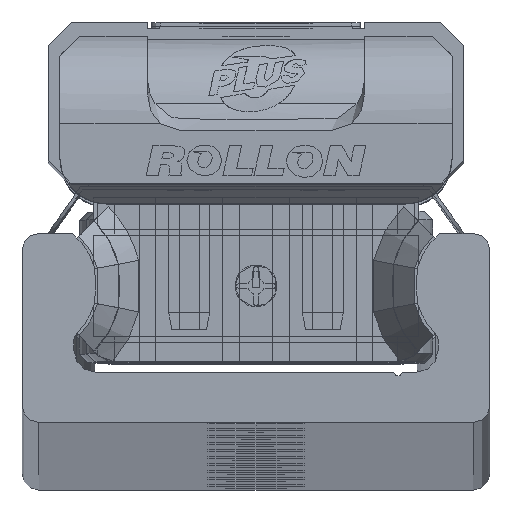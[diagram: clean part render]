
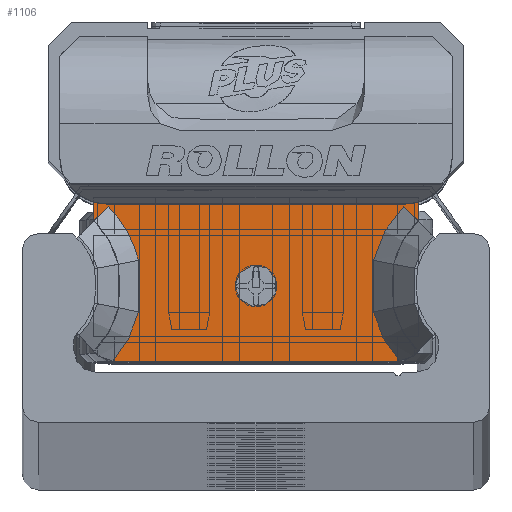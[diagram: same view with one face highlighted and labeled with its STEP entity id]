
A CAD part, top view. The second image highlights one B-rep face of the part: STEP entity #1106.
In plain terms, the highlighted planar face has unit normal (0, 0, 1) as drawn and (0, 0, -1) by its records, which use the part's own axes.
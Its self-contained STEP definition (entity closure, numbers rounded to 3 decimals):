
#1106 = ADVANCED_FACE( '', ( #2772, #2773 ), #2774, .F. );
#2772 = FACE_BOUND( '', #5143, .T. );
#2773 = FACE_OUTER_BOUND( '', #5144, .T. );
#2774 = PLANE( '', #5145 );
#5143 = EDGE_LOOP( '', ( #8236 ) );
#5144 = EDGE_LOOP( '', ( #8237, #8238, #8239, #8240, #8241, #8242, #8243, #8244, #8245, #8246, #8247, #8248, #8249, #8250 ) );
#5145 = AXIS2_PLACEMENT_3D( '', #8251, #8252, #8253 );
#8236 = ORIENTED_EDGE( '', *, *, #13626, .T. );
#8237 = ORIENTED_EDGE( '', *, *, #13627, .F. );
#8238 = ORIENTED_EDGE( '', *, *, #13628, .T. );
#8239 = ORIENTED_EDGE( '', *, *, #13629, .T. );
#8240 = ORIENTED_EDGE( '', *, *, #13630, .T. );
#8241 = ORIENTED_EDGE( '', *, *, #13631, .T. );
#8242 = ORIENTED_EDGE( '', *, *, #13632, .T. );
#8243 = ORIENTED_EDGE( '', *, *, #13633, .T. );
#8244 = ORIENTED_EDGE( '', *, *, #13634, .T. );
#8245 = ORIENTED_EDGE( '', *, *, #13635, .T. );
#8246 = ORIENTED_EDGE( '', *, *, #13636, .T. );
#8247 = ORIENTED_EDGE( '', *, *, #13637, .T. );
#8248 = ORIENTED_EDGE( '', *, *, #13638, .T. );
#8249 = ORIENTED_EDGE( '', *, *, #13447, .T. );
#8250 = ORIENTED_EDGE( '', *, *, #13639, .T. );
#8251 = CARTESIAN_POINT( '', ( 9.7, 4.89, -10.6 ) );
#8252 = DIRECTION( '', ( 0., 0., 1. ) );
#8253 = DIRECTION( '', ( 1., 0., 0. ) );
#13447 = EDGE_CURVE( '', #16121, #16122, #16123, .T. );
#13626 = EDGE_CURVE( '', #16417, #16417, #16418, .T. );
#13627 = EDGE_CURVE( '', #16419, #16420, #16421, .T. );
#13628 = EDGE_CURVE( '', #16419, #16422, #16423, .T. );
#13629 = EDGE_CURVE( '', #16422, #16424, #16425, .T. );
#13630 = EDGE_CURVE( '', #16424, #16426, #16427, .T. );
#13631 = EDGE_CURVE( '', #16426, #16177, #16428, .T. );
#13632 = EDGE_CURVE( '', #16177, #16429, #16430, .T. );
#13633 = EDGE_CURVE( '', #16429, #16431, #16432, .T. );
#13634 = EDGE_CURVE( '', #16431, #16433, #16434, .T. );
#13635 = EDGE_CURVE( '', #16433, #16435, #16436, .T. );
#13636 = EDGE_CURVE( '', #16435, #15860, #16437, .T. );
#13637 = EDGE_CURVE( '', #15860, #16438, #16439, .T. );
#13638 = EDGE_CURVE( '', #16438, #16121, #16440, .T. );
#13639 = EDGE_CURVE( '', #16122, #16420, #16441, .T. );
#15860 = VERTEX_POINT( '', #19471 );
#16121 = VERTEX_POINT( '', #19822 );
#16122 = VERTEX_POINT( '', #19823 );
#16123 = B_SPLINE_CURVE_WITH_KNOTS( '', 2, ( #19824, #19825, #19826 ), .UNSPECIFIED., .F., .F., ( 3, 3 ), ( 0., 1. ), .UNSPECIFIED. );
#16177 = VERTEX_POINT( '', #19896 );
#16417 = VERTEX_POINT( '', #20206 );
#16418 = CIRCLE( '', #20207, 1.25 );
#16419 = VERTEX_POINT( '', #20208 );
#16420 = VERTEX_POINT( '', #20209 );
#16421 = LINE( '', #20210, #20211 );
#16422 = VERTEX_POINT( '', #20212 );
#16423 = CIRCLE( '', #20213, 2.8 );
#16424 = VERTEX_POINT( '', #20214 );
#16425 = LINE( '', #20215, #20216 );
#16426 = VERTEX_POINT( '', #20217 );
#16427 = CIRCLE( '', #20218, 2.8 );
#16428 = LINE( '', #20219, #20220 );
#16429 = VERTEX_POINT( '', #20221 );
#16430 = LINE( '', #20222, #20223 );
#16431 = VERTEX_POINT( '', #20224 );
#16432 = B_SPLINE_CURVE_WITH_KNOTS( '', 2, ( #20225, #20226, #20227, #20228, #20229 ), .UNSPECIFIED., .F., .F., ( 3, 2, 3 ), ( 0., 0.5, 1. ), .UNSPECIFIED. );
#16433 = VERTEX_POINT( '', #20230 );
#16434 = B_SPLINE_CURVE_WITH_KNOTS( '', 2, ( #20231, #20232, #20233 ), .UNSPECIFIED., .F., .F., ( 3, 3 ), ( 0., 1. ), .UNSPECIFIED. );
#16435 = VERTEX_POINT( '', #20234 );
#16436 = B_SPLINE_CURVE_WITH_KNOTS( '', 2, ( #20235, #20236, #20237 ), .UNSPECIFIED., .F., .F., ( 3, 3 ), ( 0., 1. ), .UNSPECIFIED. );
#16437 = LINE( '', #20238, #20239 );
#16438 = VERTEX_POINT( '', #20240 );
#16439 = B_SPLINE_CURVE_WITH_KNOTS( '', 2, ( #20241, #20242, #20243 ), .UNSPECIFIED., .F., .F., ( 3, 3 ), ( 0.1, 1. ), .UNSPECIFIED. );
#16440 = B_SPLINE_CURVE_WITH_KNOTS( '', 2, ( #20244, #20245, #20246 ), .UNSPECIFIED., .F., .F., ( 3, 3 ), ( 0., 1. ), .UNSPECIFIED. );
#16441 = LINE( '', #20247, #20248 );
#19471 = CARTESIAN_POINT( '', ( -8.59, -4.893, -10.6 ) );
#19822 = CARTESIAN_POINT( '', ( -7.031, 1.144, -10.6 ) );
#19823 = CARTESIAN_POINT( '', ( -8.853, 4.366, -10.6 ) );
#19824 = CARTESIAN_POINT( '', ( -7.031, 1.144, -10.6 ) );
#19825 = CARTESIAN_POINT( '', ( -7.477, 3.018, -10.6 ) );
#19826 = CARTESIAN_POINT( '', ( -8.853, 4.366, -10.6 ) );
#19896 = CARTESIAN_POINT( '', ( 9.7, 3.497, -10.6 ) );
#20206 = CARTESIAN_POINT( '', ( 1.25, -0.39, -10.6 ) );
#20207 = AXIS2_PLACEMENT_3D( '', #24373, #24374, #24375 );
#20208 = CARTESIAN_POINT( '', ( -9.7, 4.612, -10.6 ) );
#20209 = CARTESIAN_POINT( '', ( -9.7, 3.494, -10.6 ) );
#20210 = CARTESIAN_POINT( '', ( -9.7, 4.89, -10.6 ) );
#20211 = VECTOR( '', #24376, 1000. );
#20212 = CARTESIAN_POINT( '', ( -8.95, 4.51, -10.6 ) );
#20213 = AXIS2_PLACEMENT_3D( '', #24377, #24378, #24379 );
#20214 = CARTESIAN_POINT( '', ( 8.95, 4.51, -10.6 ) );
#20215 = CARTESIAN_POINT( '', ( 9.7, 4.51, -10.6 ) );
#20216 = VECTOR( '', #24380, 1000. );
#20217 = CARTESIAN_POINT( '', ( 9.7, 4.612, -10.6 ) );
#20218 = AXIS2_PLACEMENT_3D( '', #24381, #24382, #24383 );
#20219 = CARTESIAN_POINT( '', ( 9.7, 4.89, -10.6 ) );
#20220 = VECTOR( '', #24384, 1000. );
#20221 = CARTESIAN_POINT( '', ( 8.853, 4.366, -10.6 ) );
#20222 = CARTESIAN_POINT( '', ( 9.7, 3.501, -10.6 ) );
#20223 = VECTOR( '', #24385, 1000. );
#20224 = CARTESIAN_POINT( '', ( 7.031, 1.144, -10.6 ) );
#20225 = CARTESIAN_POINT( '', ( 8.853, 4.366, -10.6 ) );
#20226 = CARTESIAN_POINT( '', ( 8.182, 3.708, -10.6 ) );
#20227 = CARTESIAN_POINT( '', ( 7.715, 2.883, -10.6 ) );
#20228 = CARTESIAN_POINT( '', ( 7.249, 2.058, -10.6 ) );
#20229 = CARTESIAN_POINT( '', ( 7.031, 1.144, -10.6 ) );
#20230 = CARTESIAN_POINT( '', ( 7.031, -1.944, -10.6 ) );
#20231 = CARTESIAN_POINT( '', ( 7.031, 1.144, -10.6 ) );
#20232 = CARTESIAN_POINT( '', ( 6.929, -0.4, -10.6 ) );
#20233 = CARTESIAN_POINT( '', ( 7.031, -1.944, -10.6 ) );
#20234 = CARTESIAN_POINT( '', ( 8.59, -4.893, -10.6 ) );
#20235 = CARTESIAN_POINT( '', ( 7.031, -1.944, -10.6 ) );
#20236 = CARTESIAN_POINT( '', ( 7.429, -3.615, -10.6 ) );
#20237 = CARTESIAN_POINT( '', ( 8.588, -4.89, -10.6 ) );
#20238 = CARTESIAN_POINT( '', ( 9.7, -4.89, -10.6 ) );
#20239 = VECTOR( '', #24386, 1000. );
#20240 = CARTESIAN_POINT( '', ( -7.031, -1.944, -10.6 ) );
#20241 = CARTESIAN_POINT( '', ( -8.587, -4.89, -10.6 ) );
#20242 = CARTESIAN_POINT( '', ( -7.432, -3.63, -10.6 ) );
#20243 = CARTESIAN_POINT( '', ( -7.031, -1.944, -10.6 ) );
#20244 = CARTESIAN_POINT( '', ( -7.031, -1.944, -10.6 ) );
#20245 = CARTESIAN_POINT( '', ( -6.929, -0.4, -10.6 ) );
#20246 = CARTESIAN_POINT( '', ( -7.031, 1.144, -10.6 ) );
#20247 = CARTESIAN_POINT( '', ( -8.853, 4.366, -10.6 ) );
#20248 = VECTOR( '', #24387, 1000. );
#24373 = CARTESIAN_POINT( '', ( 0., -0.39, -10.6 ) );
#24374 = DIRECTION( '', ( 0., 0., 1. ) );
#24375 = DIRECTION( '', ( 1., 0., 0. ) );
#24376 = DIRECTION( '', ( 0., -1., 0. ) );
#24377 = CARTESIAN_POINT( '', ( -8.95, 7.31, -10.6 ) );
#24378 = DIRECTION( '', ( 0., 0., 1. ) );
#24379 = DIRECTION( '', ( 1., 0., 0. ) );
#24380 = DIRECTION( '', ( 1., 0., 0. ) );
#24381 = CARTESIAN_POINT( '', ( 8.95, 7.31, -10.6 ) );
#24382 = DIRECTION( '', ( 0., 0., 1. ) );
#24383 = DIRECTION( '', ( 1., 0., 0. ) );
#24384 = DIRECTION( '', ( 0., -1., 0. ) );
#24385 = DIRECTION( '', ( -0.7, 0.714, 0. ) );
#24386 = DIRECTION( '', ( -1., 0., 0. ) );
#24387 = DIRECTION( '', ( -0.7, -0.714, 0. ) );
